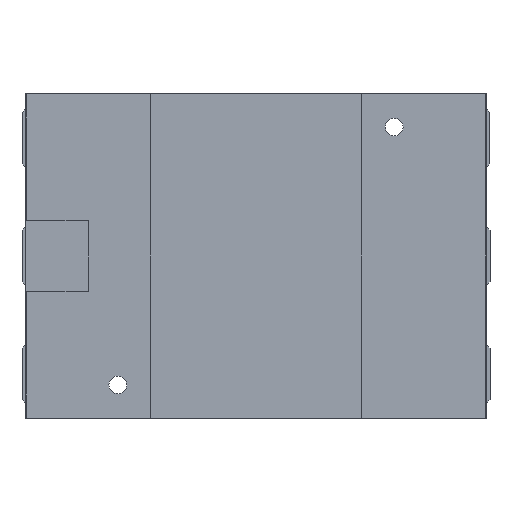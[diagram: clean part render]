
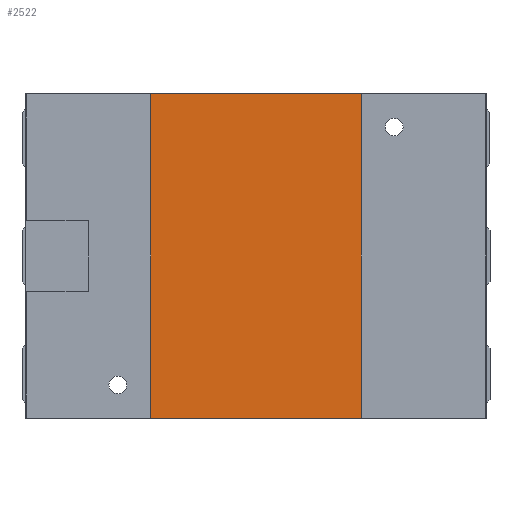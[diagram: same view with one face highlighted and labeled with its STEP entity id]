
A CAD part, left-side view. The second image highlights one B-rep face of the part: STEP entity #2522.
In plain terms, the highlighted planar face has unit normal (-1, 0, 0).
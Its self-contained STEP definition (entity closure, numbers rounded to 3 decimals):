
#2357 = VERTEX_POINT ( 'NONE', #5252 ) ;
#2402 = VERTEX_POINT ( 'NONE', #5335 ) ;
#2406 = EDGE_CURVE ( 'NONE', #2357, #2402, #5389, .T. ) ;
#2485 = VERTEX_POINT ( 'NONE', #5565 ) ;
#2491 = EDGE_CURVE ( 'NONE', #2492, #2485, #5554, .T. ) ;
#2492 = VERTEX_POINT ( 'NONE', #5550 ) ;
#2522 = ADVANCED_FACE ( 'NONE', ( #5648 ), #5690, .T. ) ;
#2524 = EDGE_LOOP ( 'NONE', ( #2526, #2529, #2533, #2536 ) ) ;
#2526 = ORIENTED_EDGE ( 'NONE', *, *, #2406, .T. ) ;
#2529 = ORIENTED_EDGE ( 'NONE', *, *, #2531, .T. ) ;
#2531 = EDGE_CURVE ( 'NONE', #2402, #2492, #5674, .T. ) ;
#2533 = ORIENTED_EDGE ( 'NONE', *, *, #2491, .T. ) ;
#2536 = ORIENTED_EDGE ( 'NONE', *, *, #2538, .F. ) ;
#2538 = EDGE_CURVE ( 'NONE', #2357, #2485, #5664, .T. ) ;
#5252 = CARTESIAN_POINT ( 'NONE',  ( -116.2, 28.5, 99.5 ) ) ;
#5335 = CARTESIAN_POINT ( 'NONE',  ( -116.2, 28.5, 11.5 ) ) ;
#5386 = DIRECTION ( 'NONE',  ( 0., 0., -1. ) ) ;
#5387 = VECTOR ( 'NONE', #5386, 1000. ) ;
#5388 = CARTESIAN_POINT ( 'NONE',  ( -116.2, 28.5, 99.5 ) ) ;
#5389 = LINE ( 'NONE', #5388, #5387 ) ;
#5550 = CARTESIAN_POINT ( 'NONE',  ( -116.2, -28.5, 11.5 ) ) ;
#5551 = DIRECTION ( 'NONE',  ( 0., 0., 1. ) ) ;
#5552 = VECTOR ( 'NONE', #5551, 1000. ) ;
#5553 = CARTESIAN_POINT ( 'NONE',  ( -116.2, -28.5, 99.5 ) ) ;
#5554 = LINE ( 'NONE', #5553, #5552 ) ;
#5565 = CARTESIAN_POINT ( 'NONE',  ( -116.2, -28.5, 99.5 ) ) ;
#5648 = FACE_OUTER_BOUND ( 'NONE', #2524, .T. ) ;
#5661 = DIRECTION ( 'NONE',  ( 0., -1., 0. ) ) ;
#5662 = VECTOR ( 'NONE', #5661, 1000. ) ;
#5663 = CARTESIAN_POINT ( 'NONE',  ( -116.2, 0., 99.5 ) ) ;
#5664 = LINE ( 'NONE', #5663, #5662 ) ;
#5671 = DIRECTION ( 'NONE',  ( 0., -1., 0. ) ) ;
#5672 = VECTOR ( 'NONE', #5671, 1000. ) ;
#5673 = CARTESIAN_POINT ( 'NONE',  ( -116.2, 0., 11.5 ) ) ;
#5674 = LINE ( 'NONE', #5673, #5672 ) ;
#5686 = DIRECTION ( 'NONE',  ( 0., 0., 1. ) ) ;
#5687 = DIRECTION ( 'NONE',  ( -1., 0., 0. ) ) ;
#5688 = CARTESIAN_POINT ( 'NONE',  ( -116.2, 62.5, 99.5 ) ) ;
#5689 = AXIS2_PLACEMENT_3D ( 'NONE', #5688, #5687, #5686 ) ;
#5690 = PLANE ( 'NONE',  #5689 ) ;
